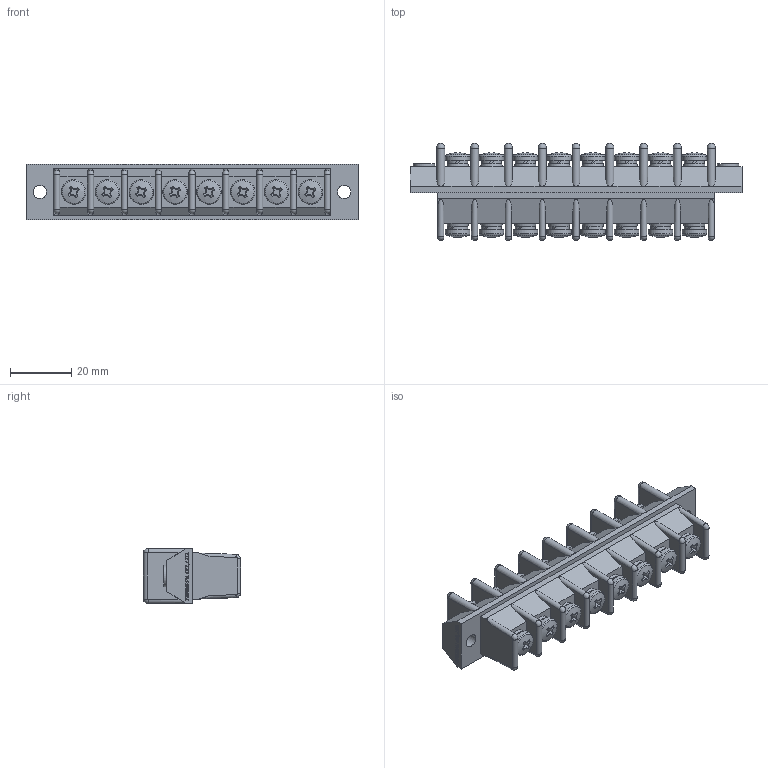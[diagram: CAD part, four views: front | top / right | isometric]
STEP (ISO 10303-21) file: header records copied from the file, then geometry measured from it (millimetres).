
FILE_DESCRIPTION(/* description */ ('Alibre Inc.'),/* implementation_level */ '2;1');
FILE_NAME(/* name */ 'export0',/* time_stamp */ '2016-01-16T17:48:04+09:00',/* author */ (''),/* organization */ (''),/* preprocessor_version */ 'ST-DEVELOPER v14',/* originating_system */ 'Alibre',/* authorisation */ '');
FILE_SCHEMA (('CONFIG_CONTROL_DESIGN'));
Length unit declared in the file: centimetre
Products named in the file (1): ID_1
Bounding box: 108 x 31.57 x 18 mm (x, y, z)
Volume: 31892.5 mm3; surface area: 15304.9 mm2
Topology: 1 solids, 9 shells, 1035 faces, 2672 edges, 1762 vertices
Faces by surface type: plane 653, cylinder 114, bspline 104, cone 96, torus 52, sphere 16
Full cylindrical faces by diameter (mm): 4 x8, 4.3 x2, 6.5 x16, 7 x2, 8 x16
Entity records: 30772 total; most frequent: CARTESIAN_POINT 6786, ORIENTED_EDGE 5172, DIRECTION 4221, EDGE_CURVE 2586, VERTEX_POINT 1752, AXIS2_PLACEMENT_3D 1736, VECTOR 1410, LINE 1410
